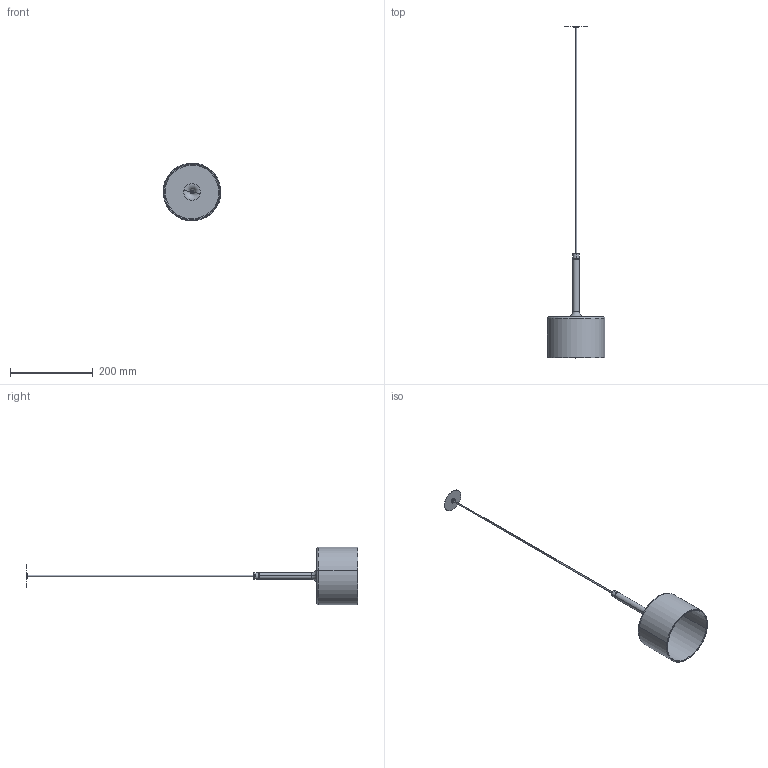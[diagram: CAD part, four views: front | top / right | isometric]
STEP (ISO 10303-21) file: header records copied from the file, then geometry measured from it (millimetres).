
FILE_DESCRIPTION (( 'STEP AP203' ), '1' );
FILE_NAME ('SPSPILG01IXXXXX-PER 3D.STEP', '2025-06-25T14:00:51', ( '' ), ( '' ), 'SwSTEP 2.0', 'SolidWorks 2024', '' );
FILE_SCHEMA (( 'CONFIG_CONTROL_DESIGN' ));
Length unit declared in the file: millimetre
Products named in the file (8): WSM2G1522-FR------; SPSPILG01IXXXXX-PER 3D; PENDENTE SPILLRAY EVO G-00; WSASS-000000047-00; CAVO NL2CN_CAVO NL2CN; VSPILLRAYGCS; WSCM2C0165-0100-00; WSCM2A0119-0700-00
Assembly tree (7 placements, depth 3):
  SPSPILG01IXXXXX-PER 3D
    WSASS-000000047-00
      WSCM2C0165-0100-00
      WSM2G1522-FR------
    PENDENTE SPILLRAY EVO G-00
      WSCM2A0119-0700-00
      CAVO NL2CN_CAVO NL2CN
      VSPILLRAYGCS
Bounding box: 139.98 x 802.42 x 139.98 mm (x, y, z)
Volume: 200916.8 mm3; surface area: 147064.9 mm2
Topology: 8 solids, 8 shells, 113 faces, 222 edges, 130 vertices
Faces by surface type: cylinder 46, torus 26, plane 23, cone 16, bspline 2
Entity records: 4010 total; most frequent: CARTESIAN_POINT 727, DIRECTION 606, ORIENTED_EDGE 444, AXIS2_PLACEMENT_3D 269, EDGE_CURVE 222, CIRCLE 146, VERTEX_POINT 130, EDGE_LOOP 128
